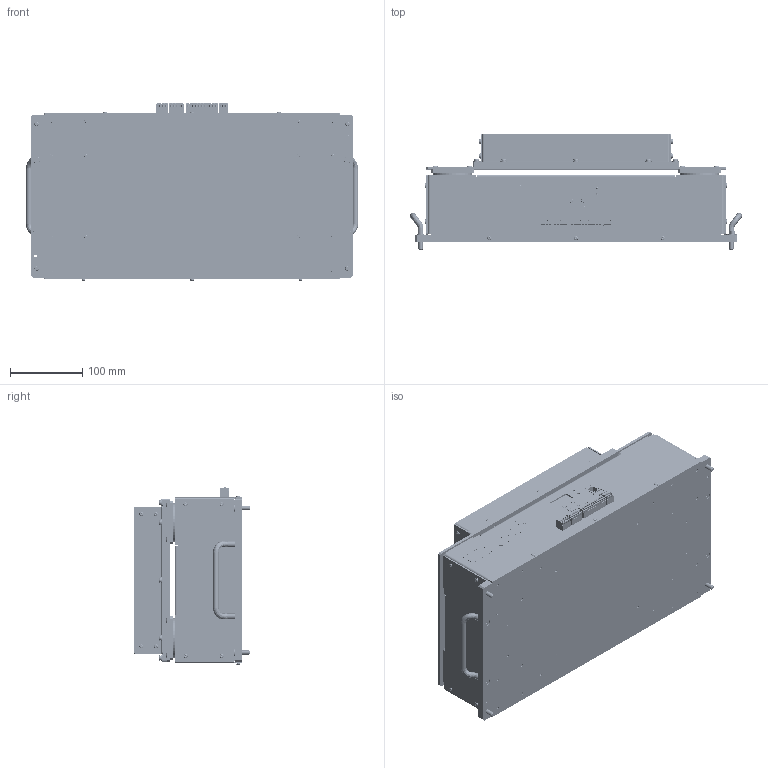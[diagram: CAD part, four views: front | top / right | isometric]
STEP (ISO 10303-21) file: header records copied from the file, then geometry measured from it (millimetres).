
FILE_DESCRIPTION (( 'STEP AP214' ), '1' );
FILE_NAME ('3-124-000089,柔性振散盘,标准,QFF-2620,250盘面,网口版,包装成品.STEP', '2025-07-18T02:53:12', ( '' ), ( '' ), 'SwSTEP 2.0', 'SolidWorks 2017', '' );
FILE_SCHEMA (( 'AUTOMOTIVE_DESIGN' ));
Length unit declared in the file: millimetre
Products named in the file (1): 3-124-000089,柔性振散盘,标准,QFF-2620,250盘面,网口版,包装成品
Bounding box: 459.3 x 159.9 x 245.85 mm (x, y, z)
Volume: 2693579.2 mm3; surface area: 1331737.2 mm2
Topology: 295 solids, 295 shells, 13262 faces, 33463 edges, 21690 vertices
Faces by surface type: plane 8211, bspline 2129, cylinder 2113, cone 445, torus 316, sphere 48
Entity records: 598133 total; most frequent: CARTESIAN_POINT 141200, ORIENTED_EDGE 66658, DIRECTION 56339, EDGE_CURVE 33329, VECTOR 23289, LINE 23289, VERTEX_POINT 21690, AXIS2_PLACEMENT_3D 16525
